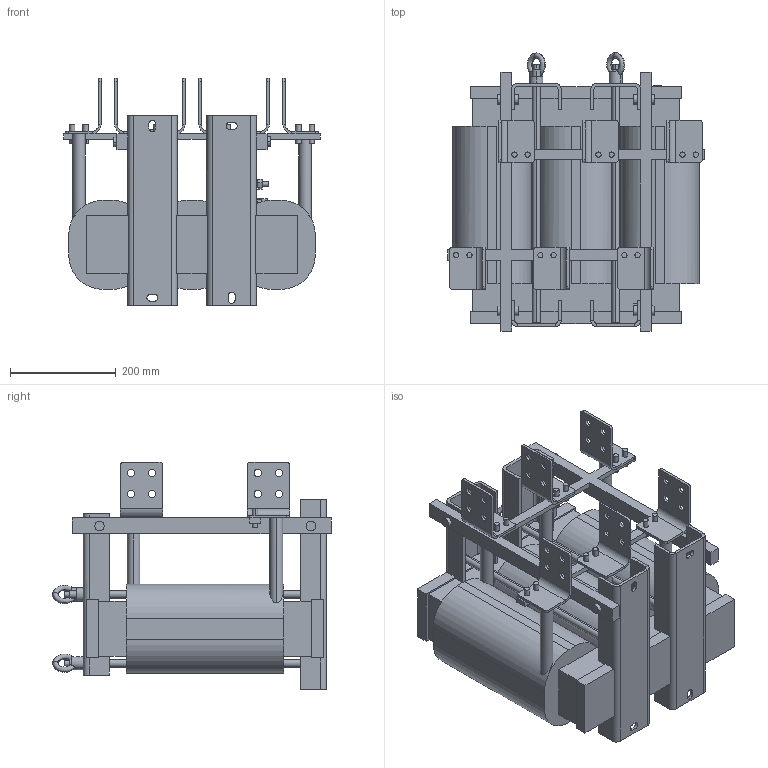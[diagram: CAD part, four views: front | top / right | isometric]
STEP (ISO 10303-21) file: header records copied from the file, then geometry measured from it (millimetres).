
FILE_DESCRIPTION (( 'STEP AP214' ), '1' );
FILE_NAME ('00Z20X0-00311.STEP', '2022-10-19T09:38:07', ( '' ), ( '' ), 'SwSTEP 2.0', 'SolidWorks 2022', '' );
FILE_SCHEMA (( 'AUTOMOTIVE_DESIGN' ));
Length unit declared in the file: centimetre
Products named in the file (1): 00Z20X0-00311
Bounding box: 486 x 527 x 430 mm (x, y, z)
Volume: 28409409.8 mm3; surface area: 1548861.2 mm2
Topology: 1 solids, 1 shells, 691 faces, 1787 edges, 1136 vertices
Faces by surface type: plane 405, cylinder 257, torus 16, bspline 13
Entity records: 22954 total; most frequent: CARTESIAN_POINT 5470, DIRECTION 3575, ORIENTED_EDGE 3574, EDGE_CURVE 1787, AXIS2_PLACEMENT_3D 1235, VERTEX_POINT 1136, VECTOR 1105, LINE 1105
